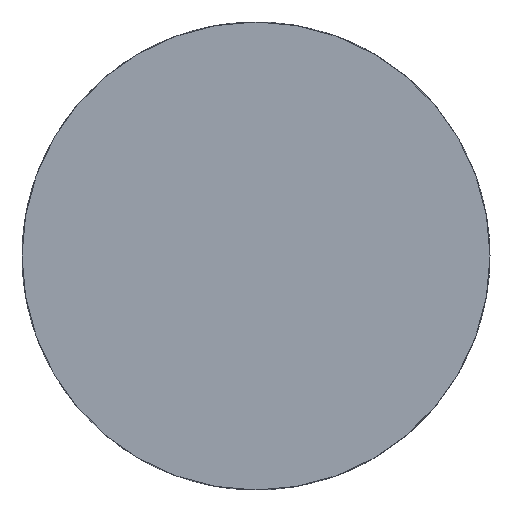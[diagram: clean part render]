
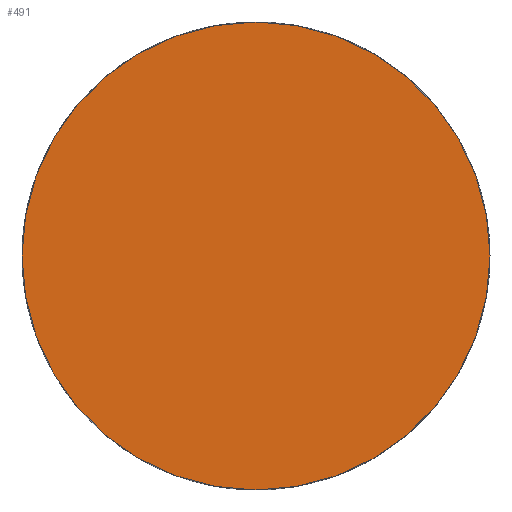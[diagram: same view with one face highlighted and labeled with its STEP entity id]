
A CAD part, left-side view. The second image highlights one B-rep face of the part: STEP entity #491.
In plain terms, the highlighted planar face has unit normal (-1, 0, 0).
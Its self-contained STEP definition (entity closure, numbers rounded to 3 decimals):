
#491 = ADVANCED_FACE( '', ( #1047 ), #1048, .F. );
#1047 = FACE_OUTER_BOUND( '', #1664, .T. );
#1048 = PLANE( '', #1665 );
#1664 = EDGE_LOOP( '', ( #3295 ) );
#1665 = AXIS2_PLACEMENT_3D( '', #3296, #3297, #3298 );
#3295 = ORIENTED_EDGE( '', *, *, #4500, .F. );
#3296 = CARTESIAN_POINT( '', ( 0., 0., 0. ) );
#3297 = DIRECTION( '', ( 1., 0., 0. ) );
#3298 = DIRECTION( '', ( 0., 1., 0. ) );
#4500 = EDGE_CURVE( '', #5689, #5689, #5690, .T. );
#5689 = VERTEX_POINT( '', #7191 );
#5690 = CIRCLE( '', #7192, 11.555 );
#7191 = CARTESIAN_POINT( '', ( 0., 11.555, 0. ) );
#7192 = AXIS2_PLACEMENT_3D( '', #8412, #8413, #8414 );
#8412 = CARTESIAN_POINT( '', ( 0., 0., 0. ) );
#8413 = DIRECTION( '', ( 1., 0., 0. ) );
#8414 = DIRECTION( '', ( 0., 1., 0. ) );
